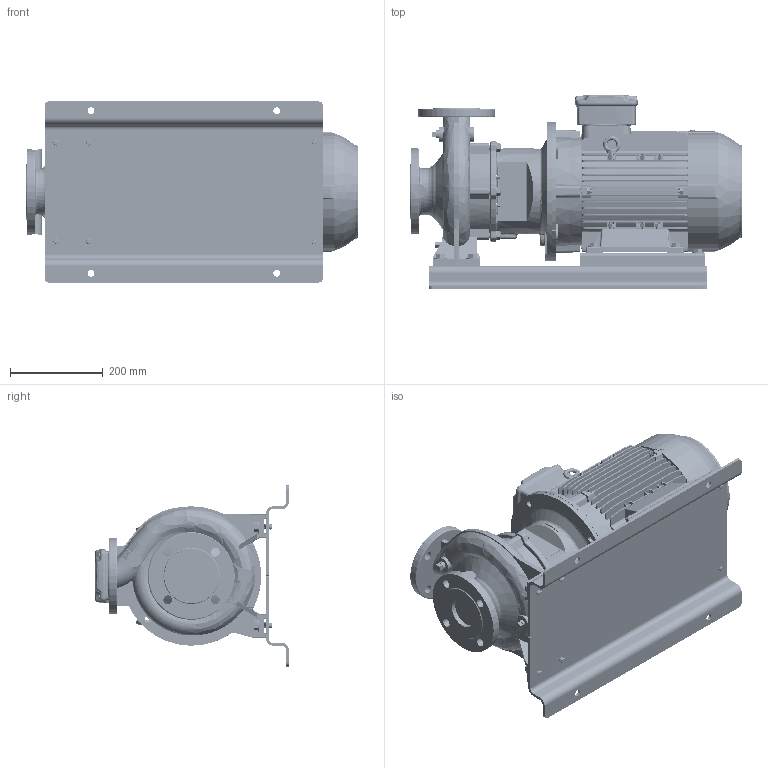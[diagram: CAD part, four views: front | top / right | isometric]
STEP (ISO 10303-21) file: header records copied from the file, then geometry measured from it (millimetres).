
FILE_DESCRIPTION (( 'STEP AP214' ), '1' );
FILE_NAME ('GSD2 50-160_9.2_(132M)_W21_BP.STEP', '2024-04-26T05:22:00', ( '' ), ( '' ), 'SwSTEP 2.0', 'SolidWorks 2019', '' );
FILE_SCHEMA (( 'AUTOMOTIVE_DESIGN' ));
Length unit declared in the file: millimetre
Products named in the file (20): Parametric bolt and washer_SFT-A299B; Parametric bolt and washer_SFT-A253B; 50-160-132M; GSD2  50-160_9.2_(132M)_W21_BP; Parametric Flat Washer_M12; Parametric bolt and washer_SFT-A275B; Parametric Flat Washer_M10; Parametric bolt_SFT-A257B; 132M ALIE3_W21T_B35; Parametric bolt_SFT-A299B; 140_178 x 28 - 271472025; N3S3 GSDA-337 F1-1832909-00; Parametric bolt_SFT-A253B
Assembly tree (35 placements, depth 3):
  GSD2  50-160_9.2_(132M)_W21_BP
    50-160-132M
    N3S3 GSDA-337 F1-1832909-00
    140_178 x 28 - 271472025  x2
    Parametric bolt and washer_SFT-A253B
      Parametric bolt_SFT-A253B
      Parametric Flat Washer_M10
    Parametric bolt and washer_SFT-A253B
      Parametric bolt_SFT-A253B
      Parametric Flat Washer_M10
    Parametric bolt and washer_SFT-A253B
      Parametric bolt_SFT-A253B
      Parametric Flat Washer_M10
    Parametric bolt and washer_SFT-A253B
      Parametric bolt_SFT-A253B
      Parametric Flat Washer_M10
    Parametric bolt and washer_SFT-A275B
      Parametric bolt_SFT-A257B
      Parametric Flat Washer_M10
    Parametric bolt and washer_SFT-A275B
      Parametric bolt_SFT-A257B
      Parametric Flat Washer_M10
    Parametric bolt and washer_SFT-A299B
      Parametric bolt_SFT-A299B
      Parametric Flat Washer_M12
    Parametric bolt and washer_SFT-A299B
      Parametric bolt_SFT-A299B
      Parametric Flat Washer_M12
    Parametric bolt and washer_SFT-A299B
      Parametric bolt_SFT-A299B
      Parametric Flat Washer_M12
    Parametric bolt and washer_SFT-A299B
      Parametric bolt_SFT-A299B
      Parametric Flat Washer_M12
    132M ALIE3_W21T_B35
Bounding box: 714.8 x 418 x 390 mm (x, y, z)
Volume: 29345668 mm3; surface area: 2466372.4 mm2
Topology: 36 solids, 36 shells, 5085 faces, 13368 edges, 8692 vertices
Faces by surface type: plane 2929, cylinder 1302, torus 341, bspline 267, cone 214, sphere 32
Entity records: 223332 total; most frequent: CARTESIAN_POINT 61138, ORIENTED_EDGE 24484, DIRECTION 21964, EDGE_CURVE 12242, LINE 7998, VECTOR 7998, VERTEX_POINT 7976, AXIS2_PLACEMENT_3D 6983
